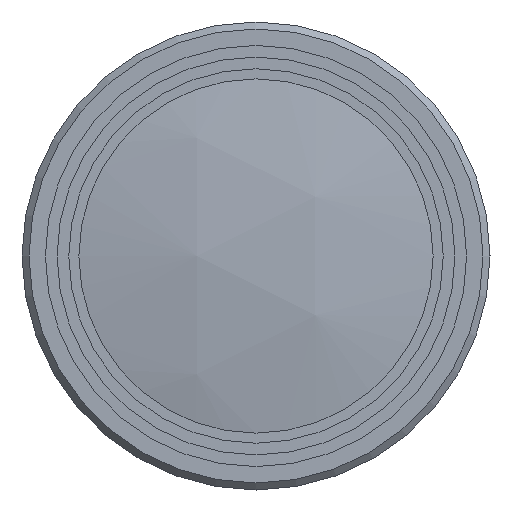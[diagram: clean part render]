
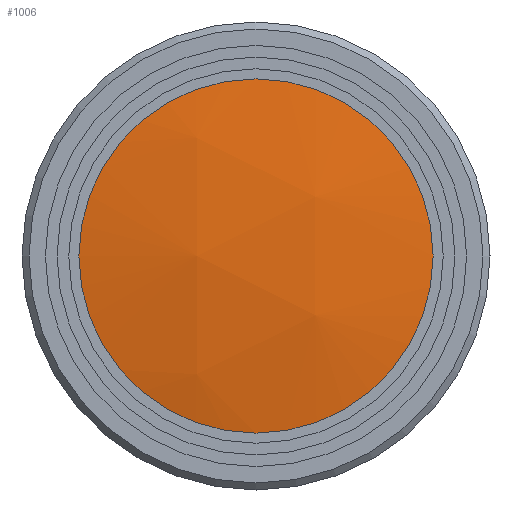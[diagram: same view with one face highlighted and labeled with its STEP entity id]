
A CAD part, left-side view. The second image highlights one B-rep face of the part: STEP entity #1006.
In plain terms, the highlighted spherical face has radius 38.87 mm.
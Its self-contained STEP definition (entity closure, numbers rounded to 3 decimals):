
#104=SPHERICAL_SURFACE('',#1103,38.87);
#265=FACE_OUTER_BOUND('',#333,.T.);
#333=EDGE_LOOP('',(#787));
#387=CIRCLE('',#1104,7.568);
#480=VERTEX_POINT('',#9847);
#603=EDGE_CURVE('',#480,#480,#387,.T.);
#787=ORIENTED_EDGE('',*,*,#603,.T.);
#1006=ADVANCED_FACE('',(#265),#104,.T.);
#1103=AXIS2_PLACEMENT_3D('',#9846,#1254,#1255);
#1104=AXIS2_PLACEMENT_3D('',#9848,#1256,#1257);
#1254=DIRECTION('center_axis',(0.,-1.,0.));
#1255=DIRECTION('ref_axis',(-1.,0.,-0.002));
#1256=DIRECTION('center_axis',(-1.,0.,0.));
#1257=DIRECTION('ref_axis',(0.,0.,-1.));
#9846=CARTESIAN_POINT('Origin',(44.516,0.,0.));
#9847=CARTESIAN_POINT('',(6.39,0.,7.568));
#9848=CARTESIAN_POINT('Origin',(6.39,0.,0.));
